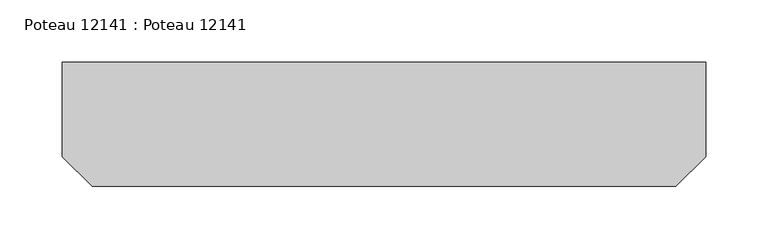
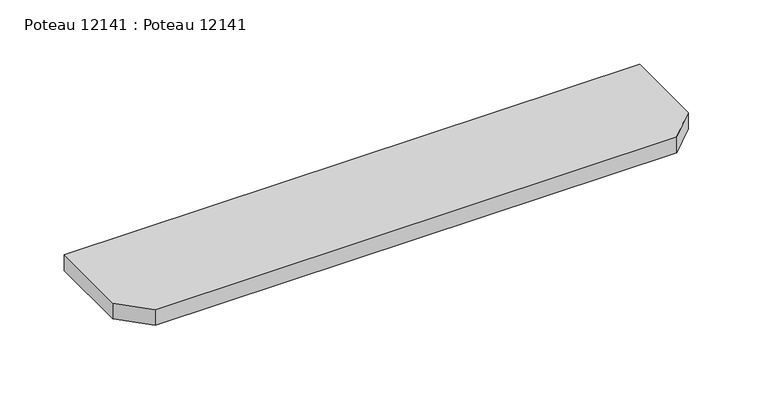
"""IFC4 building model written with IfcOpenShell, lengths in millimetres: beam geometry, Poteau 12141 : Poteau 12141."""

from ifc_helpers import new_model, si_unit, frame, origin, place, context, project, spatial, polyline, outline, extrude, source, transform, mapped, element, save


def poteau_12141_poteau_12141_6bde2392(model_context):
    return source(origin(), model_context, "Body", "SweptSolid", [
        extrude(outline(polyline([(15348.7999999, -114.45), (14881.1999999, -114.45), (14857.1999999, -90.45), (14857.1999999, -15.0), (15372.7999999, -15.0), (15372.7999999, -90.45), (15348.7999999, -114.45)])), frame((0.0, 0.0, 6428.6958916), z_axis=(0.0, 0.0, 1.0), x_axis=(1.0, 0.0, 0.0)), (0.0, 0.0, 1.0), 15.0),
    ])


if __name__ == "__main__":
    model = new_model("IFC4")
    model_context = context("Model", 3, world=origin())
    ifc_project = project(units=[si_unit("LENGTHUNIT", "METRE", prefix="MILLI")], contexts=[model_context])
    site = spatial("IfcSite", under=ifc_project)
    building = spatial("IfcBuilding", under=site)
    placement = place(None, origin())
    poteau_12141_poteau_12141_shape = poteau_12141_poteau_12141_6bde2392(model_context)
    element("IfcBeam", 1, ObjectType="Poteau 12141 : Poteau 12141", at=placement, inside=building, context=model_context, shape_type="MappedRepresentation", body=[
        mapped(poteau_12141_poteau_12141_shape, transform((0.0, 0.0, 0.0), x_axis=(1.0, 0.0, 0.0), y_axis=(0.0, 1.0, 0.0), z_axis=(0.0, 0.0, 1.0))),
    ])
    save(model, "model.ifc")
